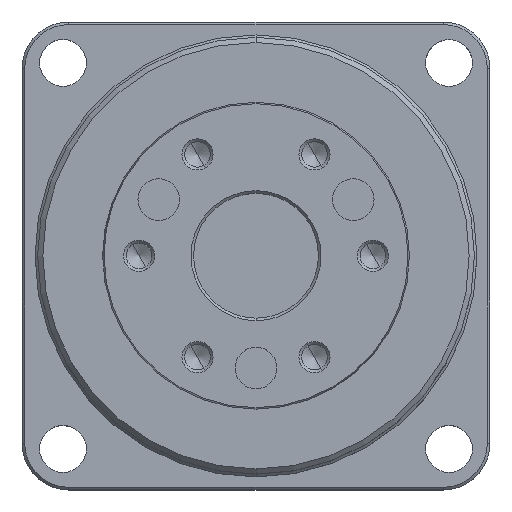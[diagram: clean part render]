
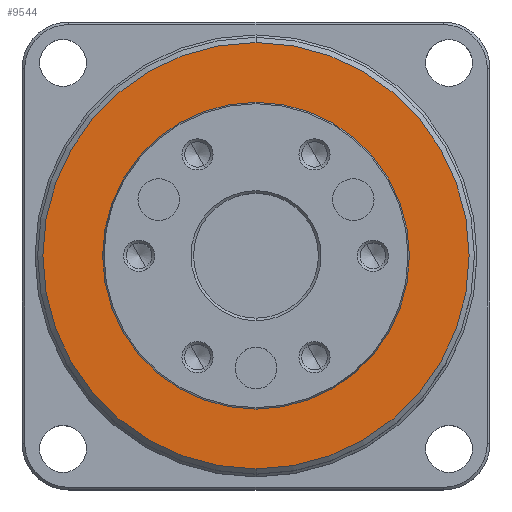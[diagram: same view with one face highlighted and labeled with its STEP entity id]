
A CAD part, top view. The second image highlights one B-rep face of the part: STEP entity #9544.
In plain terms, the highlighted planar face has unit normal (0, 0, 1).
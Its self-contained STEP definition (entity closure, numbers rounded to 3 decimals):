
#2634=CARTESIAN_POINT('',(0.,0.,26.));
#2635=DIRECTION('',(0.,0.,-1.));
#2636=DIRECTION('',(0.,1.,0.));
#2637=AXIS2_PLACEMENT_3D('',#2634,#2635,#2636);
#2639=CARTESIAN_POINT('',(0.,0.,26.));
#2640=DIRECTION('',(0.,0.,-1.));
#2641=DIRECTION('',(0.,-1.,0.));
#2642=AXIS2_PLACEMENT_3D('',#2639,#2640,#2641);
#2644=CARTESIAN_POINT('',(0.,0.,26.));
#2645=DIRECTION('',(0.,0.,1.));
#2646=DIRECTION('',(0.,-1.,0.));
#2647=AXIS2_PLACEMENT_3D('',#2644,#2645,#2646);
#2649=CARTESIAN_POINT('',(0.,0.,26.));
#2650=DIRECTION('',(0.,0.,1.));
#2651=DIRECTION('',(0.,1.,0.));
#2652=AXIS2_PLACEMENT_3D('',#2649,#2650,#2651);
#5648=CARTESIAN_POINT('',(0.,41.,26.));
#5649=VERTEX_POINT('',#5648);
#5650=CARTESIAN_POINT('',(0.,-41.,26.));
#5651=VERTEX_POINT('',#5650);
#5652=CARTESIAN_POINT('',(0.,-29.5,26.));
#5653=CARTESIAN_POINT('',(0.,29.5,26.));
#5654=VERTEX_POINT('',#5652);
#5655=VERTEX_POINT('',#5653);
#9529=CARTESIAN_POINT('',(0.,0.,26.));
#9530=DIRECTION('',(0.,0.,1.));
#9531=DIRECTION('',(0.,-1.,0.));
#9532=AXIS2_PLACEMENT_3D('',#9529,#9530,#9531);
#9533=PLANE('',#9532);
#9534=ORIENTED_EDGE('',*,*,#9524,.T.);
#9535=ORIENTED_EDGE('',*,*,#9508,.T.);
#9536=EDGE_LOOP('',(#9534,#9535));
#9537=FACE_OUTER_BOUND('',#9536,.F.);
#9539=ORIENTED_EDGE('',*,*,#9538,.T.);
#9541=ORIENTED_EDGE('',*,*,#9540,.T.);
#9542=EDGE_LOOP('',(#9539,#9541));
#9543=FACE_BOUND('',#9542,.F.);
#9544=ADVANCED_FACE('',(#9537,#9543),#9533,.T.);
#2638=CIRCLE('',#2637,41.);
#2643=CIRCLE('',#2642,41.);
#2648=CIRCLE('',#2647,29.5);
#2653=CIRCLE('',#2652,29.5);
#9508=EDGE_CURVE('',#5651,#5649,#2643,.T.);
#9524=EDGE_CURVE('',#5649,#5651,#2638,.T.);
#9538=EDGE_CURVE('',#5654,#5655,#2648,.T.);
#9540=EDGE_CURVE('',#5655,#5654,#2653,.T.);
